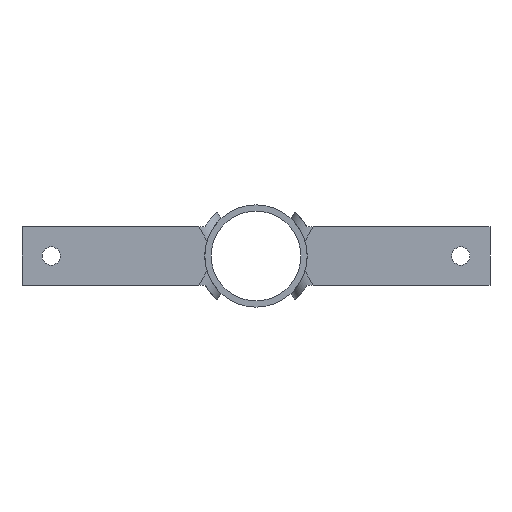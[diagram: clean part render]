
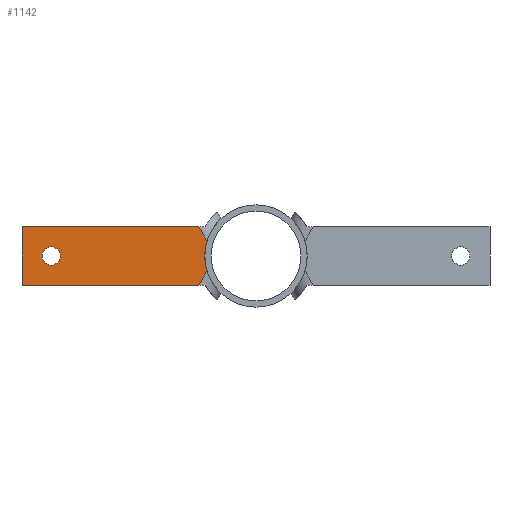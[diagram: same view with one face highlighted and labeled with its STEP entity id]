
A CAD part, front view. The second image highlights one B-rep face of the part: STEP entity #1142.
In plain terms, the highlighted planar face has unit normal (0, -1, 0).
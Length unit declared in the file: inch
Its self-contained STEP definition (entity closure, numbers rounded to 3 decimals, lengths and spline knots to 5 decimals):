
#45=FACE_BOUND('',#199,.T.);
#63=PLANE('',#1228);
#94=CIRCLE('',#1229,1.75);
#95=CIRCLE('',#1230,1.75);
#96=CIRCLE('',#1231,0.3125);
#142=FACE_OUTER_BOUND('',#198,.T.);
#198=EDGE_LOOP('',(#804,#805,#806,#807,#808,#809,#810));
#199=EDGE_LOOP('',(#811));
#276=LINE('',#1761,#365);
#280=LINE('',#1773,#369);
#286=LINE('',#1814,#375);
#293=LINE('',#1861,#382);
#294=LINE('',#1862,#383);
#365=VECTOR('',#1362,0.3937);
#369=VECTOR('',#1376,0.3937);
#375=VECTOR('',#1386,0.3937);
#382=VECTOR('',#1409,0.3937);
#383=VECTOR('',#1410,0.3937);
#482=VERTEX_POINT('',#1745);
#483=VERTEX_POINT('',#1760);
#485=VERTEX_POINT('',#1770);
#486=VERTEX_POINT('',#1772);
#493=VERTEX_POINT('',#1812);
#498=VERTEX_POINT('',#1857);
#499=VERTEX_POINT('',#1860);
#500=VERTEX_POINT('',#1863);
#596=EDGE_CURVE('',#482,#483,#276,.T.);
#602=EDGE_CURVE('',#485,#486,#280,.T.);
#611=EDGE_CURVE('',#485,#493,#286,.T.);
#621=EDGE_CURVE('',#498,#482,#94,.T.);
#622=EDGE_CURVE('',#486,#498,#95,.T.);
#623=EDGE_CURVE('',#493,#499,#293,.T.);
#624=EDGE_CURVE('',#499,#483,#294,.T.);
#625=EDGE_CURVE('',#500,#500,#96,.T.);
#804=ORIENTED_EDGE('',*,*,#596,.F.);
#805=ORIENTED_EDGE('',*,*,#621,.F.);
#806=ORIENTED_EDGE('',*,*,#622,.F.);
#807=ORIENTED_EDGE('',*,*,#602,.F.);
#808=ORIENTED_EDGE('',*,*,#611,.T.);
#809=ORIENTED_EDGE('',*,*,#623,.T.);
#810=ORIENTED_EDGE('',*,*,#624,.T.);
#811=ORIENTED_EDGE('',*,*,#625,.T.);
#1142=ADVANCED_FACE('',(#142,#45),#63,.F.);
#1228=AXIS2_PLACEMENT_3D('',#1856,#1403,#1404);
#1229=AXIS2_PLACEMENT_3D('',#1858,#1405,#1406);
#1230=AXIS2_PLACEMENT_3D('',#1859,#1407,#1408);
#1231=AXIS2_PLACEMENT_3D('',#1864,#1411,#1412);
#1362=DIRECTION('',(-0.5,0.,-0.866));
#1376=DIRECTION('',(0.5,0.,-0.866));
#1386=DIRECTION('',(-1.,0.,0.));
#1403=DIRECTION('center_axis',(0.,1.,0.));
#1404=DIRECTION('ref_axis',(0.,0.,1.));
#1405=DIRECTION('center_axis',(0.,-1.,0.));
#1406=DIRECTION('ref_axis',(1.,0.,0.));
#1407=DIRECTION('center_axis',(0.,-1.,0.));
#1408=DIRECTION('ref_axis',(1.,0.,0.));
#1409=DIRECTION('',(0.,0.,-1.));
#1410=DIRECTION('',(1.,0.,0.));
#1411=DIRECTION('center_axis',(0.,1.,0.));
#1412=DIRECTION('ref_axis',(-1.,0.,0.));
#1745=CARTESIAN_POINT('',(-1.67439,4.,-0.50884));
#1760=CARTESIAN_POINT('',(-1.95796,4.,-1.));
#1761=CARTESIAN_POINT('',(-1.33072,4.,0.08641));
#1770=CARTESIAN_POINT('',(-1.95796,4.,1.));
#1772=CARTESIAN_POINT('',(-1.67439,4.,0.50884));
#1773=CARTESIAN_POINT('',(-1.65649,4.,0.47783));
#1812=CARTESIAN_POINT('',(-8.,4.,1.));
#1814=CARTESIAN_POINT('',(8.,4.,1.));
#1856=CARTESIAN_POINT('Origin',(0.,4.,0.9));
#1857=CARTESIAN_POINT('',(-1.75,4.,0.));
#1858=CARTESIAN_POINT('Origin',(0.,4.,0.));
#1859=CARTESIAN_POINT('Origin',(0.,4.,0.));
#1860=CARTESIAN_POINT('',(-8.,4.,-1.));
#1861=CARTESIAN_POINT('',(-8.,4.,1.));
#1862=CARTESIAN_POINT('',(-8.,4.,-1.));
#1863=CARTESIAN_POINT('',(-6.6875,4.,0.));
#1864=CARTESIAN_POINT('Origin',(-7.,4.,0.));
